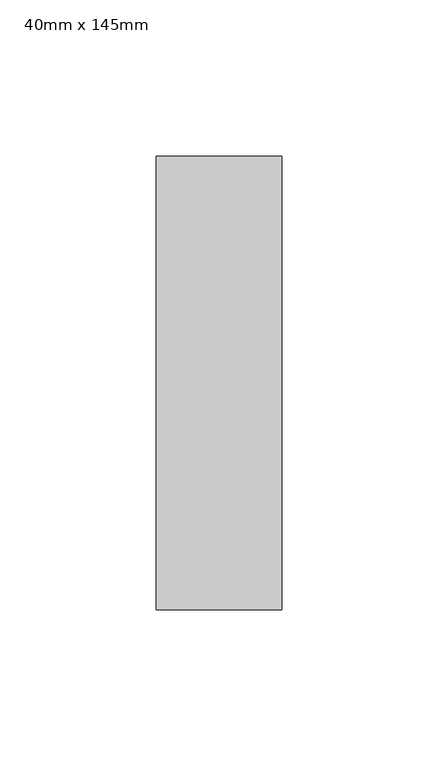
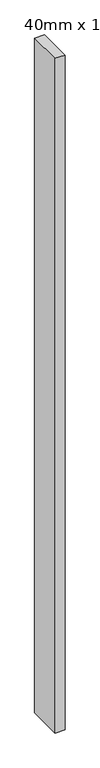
"""IFC4 building model written with IfcOpenShell, lengths in millimetres: column geometry, Poteau - Lamellé-collé - Pin du sud : 40mm x 145mm."""

from ifc_helpers import new_model, si_unit, frame, origin, place, context, project, spatial, polyline, outline, extrude, source, transform, mapped, element, save


def column_40mm_x_145mm_5b8a7ea4(model_context):
    return source(origin(), model_context, "Body", "SweptSolid", [
        extrude(outline(polyline([(20.0, 72.5), (20.0, -72.5), (-20.0, -72.5), (-20.0, 72.5), (20.0, 72.5)])), frame((0.0, 0.0, 3990.0), z_axis=(0.0, 0.0, 1.0), x_axis=(1.0, 0.0, 0.0)), (0.0, 0.0, 1.0), 2920.0),
    ])


if __name__ == "__main__":
    model = new_model("IFC4")
    model_context = context("Model", 3, world=origin())
    ifc_project = project(units=[si_unit("LENGTHUNIT", "METRE", prefix="MILLI")], contexts=[model_context])
    site = spatial("IfcSite", under=ifc_project)
    building = spatial("IfcBuilding", under=site)
    placement = place(None, origin())
    column_40mm_x_145mm_shape = column_40mm_x_145mm_5b8a7ea4(model_context)
    element("IfcColumn", 1, ObjectType="Poteau - Lamellé-collé - Pin du sud : 40mm x 145mm", at=placement, inside=building, context=model_context, shape_type="MappedRepresentation", body=[
        mapped(column_40mm_x_145mm_shape, transform((0.0, 0.0, 0.0), x_axis=(1.0, 0.0, 0.0), y_axis=(0.0, 1.0, 0.0), z_axis=(0.0, 0.0, 1.0))),
    ])
    save(model, "model.ifc")
